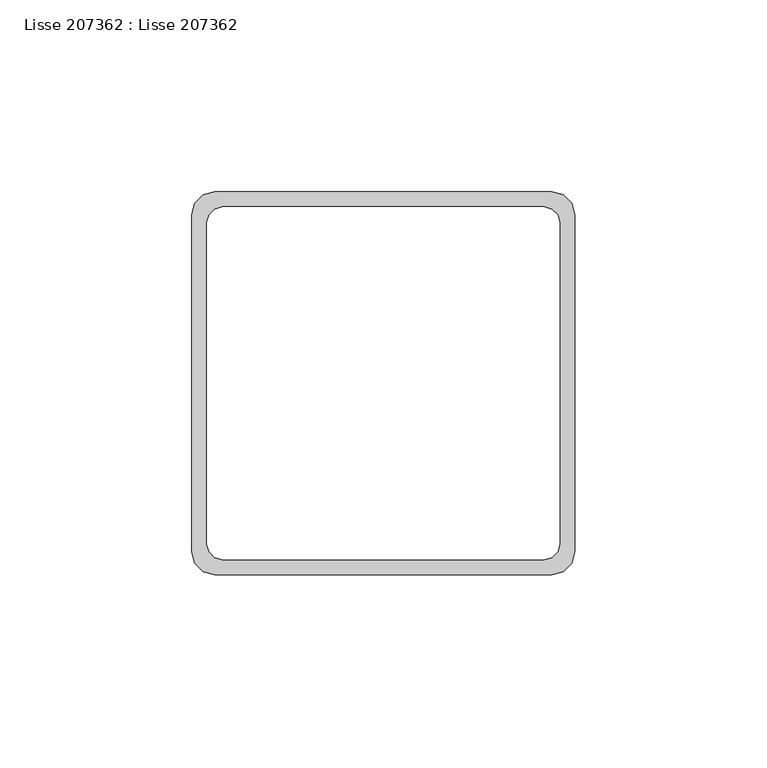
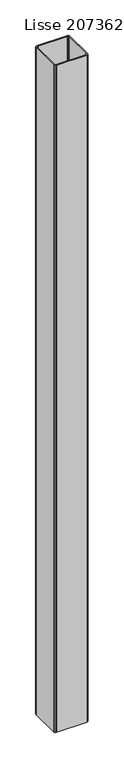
"""IFC4 building model written with IfcOpenShell, lengths in millimetres: beam geometry, Lisse 207362 : Lisse 207362."""

from ifc_helpers import new_model, si_unit, frame, origin, place, context, project, spatial, polyline, outline, extrude, source, transform, mapped, element, save


def lisse_207362_lisse_207362_ed247cf7(model_context):
    return source(origin(), model_context, "Body", "SweptSolid", [
        extrude(outline(polyline([(-80.8038477, -38797.0), (-83.0000001, -38799.1961524), (-86.0000001, -38800.0), (-174.0000001, -38800.0), (-177.0000001, -38799.1961524), (-179.1961526, -38797.0), (-180.0000001, -38794.0), (-180.0000001, -38706.0), (-179.1961526, -38703.0), (-177.0000001, -38700.8038476), (-174.0000001, -38700.0), (-86.0000001, -38700.0), (-83.0000001, -38700.8038476), (-80.8038477, -38703.0), (-80.0000001, -38706.0), (-80.0000001, -38794.0), (-80.8038477, -38797.0)]), holes=[polyline([(-84.5358985, -38706.0), (-86.0000001, -38704.5358984), (-88.0000001, -38704.0), (-172.0000001, -38704.0), (-174.0000001, -38704.5358984), (-175.4641017, -38706.0), (-176.0000001, -38708.0), (-176.0000001, -38792.0), (-175.4641017, -38794.0), (-174.0000001, -38795.4641016), (-172.0000001, -38796.0), (-88.0000001, -38796.0), (-86.0000001, -38795.4641016), (-84.5358985, -38794.0), (-84.0000001, -38792.0), (-84.0000001, -38708.0), (-84.5358985, -38706.0)])]), frame((0.0, 0.0, 2847.0), z_axis=(0.0, 0.0, 1.0), x_axis=(1.0, 0.0, 0.0)), (0.0, 0.0, 1.0), 2053.0),
    ])


if __name__ == "__main__":
    model = new_model("IFC4")
    model_context = context("Model", 3, world=origin())
    ifc_project = project(units=[si_unit("LENGTHUNIT", "METRE", prefix="MILLI")], contexts=[model_context])
    site = spatial("IfcSite", under=ifc_project)
    building = spatial("IfcBuilding", under=site)
    placement = place(None, origin())
    lisse_207362_lisse_207362_shape = lisse_207362_lisse_207362_ed247cf7(model_context)
    element("IfcBeam", 1, ObjectType="Lisse 207362 : Lisse 207362", at=placement, inside=building, context=model_context, shape_type="MappedRepresentation", body=[
        mapped(lisse_207362_lisse_207362_shape, transform((0.0, 0.0, 0.0), x_axis=(1.0, 0.0, 0.0), y_axis=(0.0, 1.0, 0.0), z_axis=(0.0, 0.0, 1.0))),
    ])
    save(model, "model.ifc")
